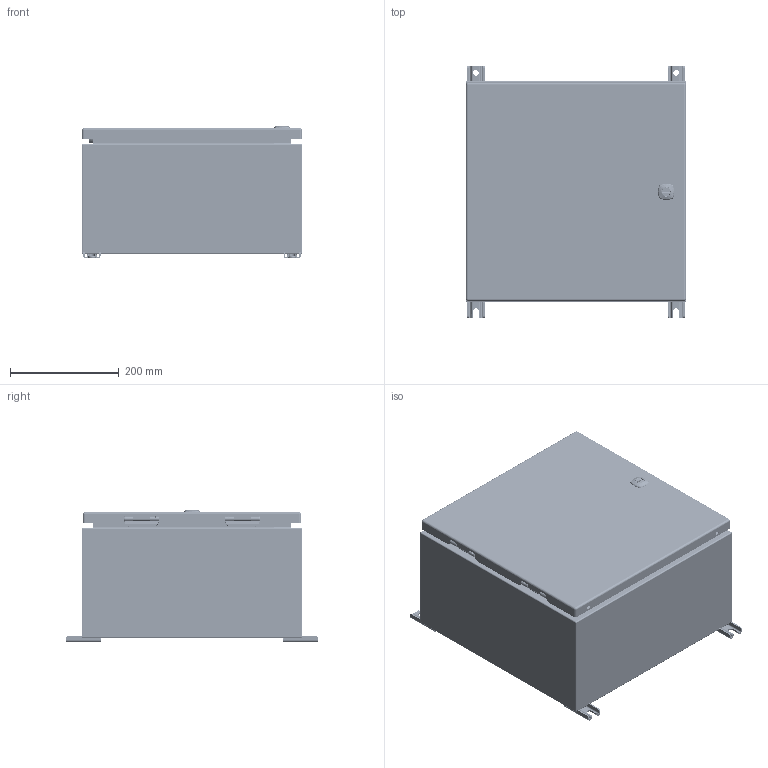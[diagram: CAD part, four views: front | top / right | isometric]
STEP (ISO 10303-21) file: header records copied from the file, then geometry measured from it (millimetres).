
FILE_DESCRIPTION(/* description */ ('5412ESTH 16" x 16" x 8" Assembly'),/* implementation_level */ '2;1');
FILE_NAME(/* name */ 'C:\Vault_Workspace\Inventor_Dwg\BoxCad\Result\5412ESTH161608\e-mail\3D\5412ESTH161608.stp',/* time_stamp */ '2023-05-03T13:39:44-04:00',/* author */ ('BoxCad'),/* organization */ (''),/* preprocessor_version */ 'ST-DEVELOPER v18.1',/* originating_system */ 'Autodesk Inventor 2020',/* authorisation */ '');
FILE_SCHEMA (('AUTOMOTIVE_DESIGN { 1 0 10303 214 3 1 1 }'));
Products named in the file (50): 5412ESTH161608; 5412ESTH161608B; 5412ESTH161608B-P; STK-Q-16005; 5412ESTH161608I-B; 5412ESTH161608I-TP; 5412ESTH161608I-BT; 5412ESTH161608I-LS; 5412ESTH161608I-RS; 5412ESTH161608BR; STK-A-70554; STK-Q-05021; STK-Q-07270; STK-A-70554TH-1; STK-Q-70554; 885ESMF3-Feet-A; 885ESMF3-Feet; STK-Q-06660; RIVET_NUT_M10_FH_CE; 5412ESTH161608C; 5412ESTH161608C-P; 5412ESTH161608G; STK-K-09800; STK-K-09800-2; STK-Q-33014; STK-Q-90398; STK-Q-40095; STK-Q-63410; STK-Q-16055; STK-P-02400S; 5412ESTH161608I-C; STK-Q-46020-16; STK-Q-07250; STK-S-00100; STK-K-12500-1; STK-Q-78111; STK-Q-78120; STK-Q-78145; STK-Q-03200; STK-Q-78141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
Assembly tree (90 placements, depth 5):
  5412ESTH161608
    5412ESTH161608B
      5412ESTH161608B-P
      STK-Q-16005  x4
      STK-P-02400S
      STK-Q-16055  x4
      5412ESTH161608I-B
      5412ESTH161608I-TP
      5412ESTH161608I-BT
      5412ESTH161608I-LS
      5412ESTH161608I-RS
      5412ESTH161608BR
        STK-A-70554
          STK-Q-70554
          STK-Q-05021
          STK-Q-07270
        STK-A-70554TH-1  x3
          STK-Q-70554
          STK-Q-07250
      885ESMF3-Feet-A  x2
      STK-Q-06660  x4
      RIVET_NUT_M10_FH_CE  x4
      885ESMF3-Feet  x2
    5412ESTH161608C
      5412ESTH161608C-P
      5412ESTH161608G
      STK-K-09800
        STK-Q-33014
        STK-Q-90398
        STK-Q-40095  x2
        STK-Q-63410  x2
      STK-K-09800-2
        STK-Q-33014
        STK-Q-90398
        STK-Q-40095  x2
        STK-Q-63410  x2
      STK-Q-16055  x4
      STK-P-02400S
      5412ESTH161608I-C
      STK-Q-46020-16  x2
      STK-Q-07250  x4
      STK-S-00100  x2
      STK-K-12500-1
        STK-Q-78111
        STK-Q-78120
        STK-Q-78145
        STK-Q-03200
        STK-Q-78141
        STK-Q-90390
        STK-Q-78160
    STK-Q-04050-08-1
      STK-Q-04050-08-P
      STK-Q-04051-N
    STK-Q-04050-08-2
      STK-Q-04050-08-P
      STK-Q-04051-N
    STK-A-01800
    881SP1616G
      881SP1616G-P
    STK-Q-00600  x4
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Bounding box: 406.47 x 463.55 x 243.78 mm (x, y, z)
Volume: 12228527.3 mm3; surface area: 3277993.7 mm2
Topology: 78 solids, 78 shells, 12566 faces, 33944 edges, 21768 vertices
Faces by surface type: bspline 4236, plane 3604, cylinder 3593, torus 693, cone 303, sphere 137
Full cylindrical faces by diameter (mm): 0.75 x12, 0.762 x12, 1 x8, 1.1 x8, 3.2 x4, 4.191 x24, 4.5 x8, 4.521 x8, 4.75 x1, 4.85 x16, 4.95 x4, 5.1 x121, 5.6 x2, 5.9 x20, 6.015 x24, 6.496 x8, 6.65 x4, 6.8 x60, 7.3 x2, 7.35 x8, 7.366 x4, 7.9 x8, 8 x4, 8.382 x2, 8.5 x4, 9.5 x1, 9.6 x1, 9.7 x36, 10 x1, 10.312 x6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
Entity records: 202831 total; most frequent: CARTESIAN_POINT 83883, ORIENTED_EDGE 26730, DIRECTION 20667, EDGE_CURVE 13365, VERTEX_POINT 8461, AXIS2_PLACEMENT_3D 7363, LINE 5941, VECTOR 5941
